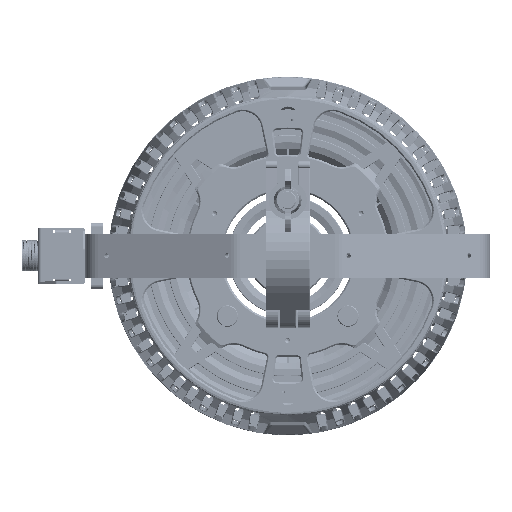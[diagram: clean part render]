
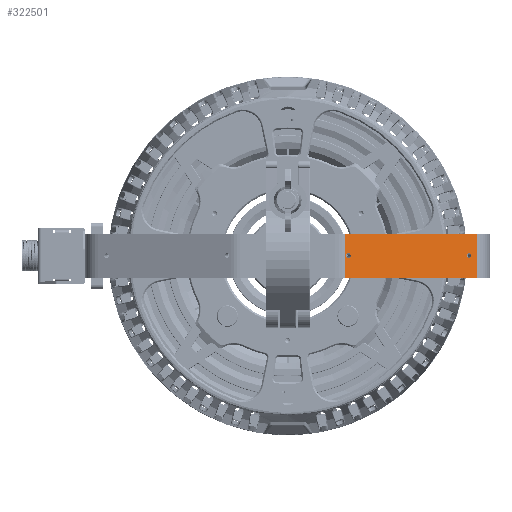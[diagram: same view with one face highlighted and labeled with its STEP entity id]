
A CAD part, top view. The second image highlights one B-rep face of the part: STEP entity #322501.
In plain terms, the highlighted planar face has unit normal (0.413, 0, 0.911) as drawn and (0.413, 0.911, 0) by its records, which use the part's own axes.
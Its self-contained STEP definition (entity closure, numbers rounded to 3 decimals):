
#4580 = VERTEX_POINT ( 'NONE', #208321 ) ;
#14765 = AXIS2_PLACEMENT_3D ( 'NONE', #99394, #97649, #255922 ) ;
#15324 = DIRECTION ( 'NONE',  ( 0.413, 0.911, 0. ) ) ;
#19506 = AXIS2_PLACEMENT_3D ( 'NONE', #152510, #15324, #97959 ) ;
#25094 = VERTEX_POINT ( 'NONE', #112784 ) ;
#30372 = DIRECTION ( 'NONE',  ( 0.413, 0.911, 0. ) ) ;
#36580 = CARTESIAN_POINT ( 'NONE',  ( 42.785, 81.788, 0. ) ) ;
#42269 = DIRECTION ( 'NONE',  ( 0.911, -0.413, 0. ) ) ;
#44720 = EDGE_CURVE ( 'NONE', #25094, #148226, #171202, .T. ) ;
#48611 = DIRECTION ( 'NONE',  ( 0., 0., 1. ) ) ;
#61942 = AXIS2_PLACEMENT_3D ( 'NONE', #134186, #30372, #137656 ) ;
#69070 = DIRECTION ( 'NONE',  ( 0.911, -0.413, 0. ) ) ;
#78253 = EDGE_CURVE ( 'NONE', #241463, #4580, #252016, .T. ) ;
#84263 = CIRCLE ( 'NONE', #61942, 1.65 ) ;
#91547 = ORIENTED_EDGE ( 'NONE', *, *, #78253, .T. ) ;
#96527 = ORIENTED_EDGE ( 'NONE', *, *, #195648, .F. ) ;
#97150 = CARTESIAN_POINT ( 'NONE',  ( 128.7, 42.793, -15. ) ) ;
#97649 = DIRECTION ( 'NONE',  ( -0.413, -0.911, 0. ) ) ;
#97959 = DIRECTION ( 'NONE',  ( -0.911, 0.413, 0. ) ) ;
#99394 = CARTESIAN_POINT ( 'NONE',  ( 36.693, 84.553, -126.295 ) ) ;
#101518 = EDGE_CURVE ( 'NONE', #160102, #241463, #310597, .T. ) ;
#105293 = DIRECTION ( 'NONE',  ( 0., 0., -1. ) ) ;
#112784 = CARTESIAN_POINT ( 'NONE',  ( 124.738, 44.591, 0. ) ) ;
#115990 = ORIENTED_EDGE ( 'NONE', *, *, #44720, .F. ) ;
#120284 = VECTOR ( 'NONE', #105293, 1000. ) ;
#121852 = CARTESIAN_POINT ( 'NONE',  ( 36.693, 84.553, 15. ) ) ;
#125778 = FACE_BOUND ( 'NONE', #299361, .T. ) ;
#134186 = CARTESIAN_POINT ( 'NONE',  ( 123.236, 45.273, 0. ) ) ;
#135006 = EDGE_CURVE ( 'NONE', #160102, #301298, #233830, .T. ) ;
#137656 = DIRECTION ( 'NONE',  ( -0.911, 0.413, 0. ) ) ;
#140053 = ORIENTED_EDGE ( 'NONE', *, *, #171310, .F. ) ;
#142189 = CARTESIAN_POINT ( 'NONE',  ( 38.663, 83.659, 15. ) ) ;
#148226 = VERTEX_POINT ( 'NONE', #256834 ) ;
#149821 = VECTOR ( 'NONE', #48611, 1000. ) ;
#152378 = DIRECTION ( 'NONE',  ( -0.911, 0.413, 0. ) ) ;
#152510 = CARTESIAN_POINT ( 'NONE',  ( 123.236, 45.273, 0. ) ) ;
#160102 = VERTEX_POINT ( 'NONE', #266092 ) ;
#166252 = CARTESIAN_POINT ( 'NONE',  ( 39.78, 83.152, 0. ) ) ;
#169792 = VECTOR ( 'NONE', #69070, 1000. ) ;
#171202 = CIRCLE ( 'NONE', #19506, 1.65 ) ;
#171310 = EDGE_CURVE ( 'NONE', #295083, #253327, #201390, .T. ) ;
#186162 = LINE ( 'NONE', #244072, #120284 ) ;
#190339 = EDGE_LOOP ( 'NONE', ( #204769, #195284, #91547, #332749 ) ) ;
#195284 = ORIENTED_EDGE ( 'NONE', *, *, #101518, .T. ) ;
#195648 = EDGE_CURVE ( 'NONE', #253327, #295083, #308546, .T. ) ;
#197890 = DIRECTION ( 'NONE',  ( 0.413, 0.911, 0. ) ) ;
#199703 = VECTOR ( 'NONE', #42269, 1000. ) ;
#201390 = CIRCLE ( 'NONE', #235202, 1.65 ) ;
#203196 = PLANE ( 'NONE',  #14765 ) ;
#204769 = ORIENTED_EDGE ( 'NONE', *, *, #135006, .F. ) ;
#208321 = CARTESIAN_POINT ( 'NONE',  ( 128.7, 42.793, 15. ) ) ;
#216357 = EDGE_LOOP ( 'NONE', ( #96527, #140053 ) ) ;
#231545 = CARTESIAN_POINT ( 'NONE',  ( 38.663, 83.659, -126.295 ) ) ;
#233007 = FACE_OUTER_BOUND ( 'NONE', #190339, .T. ) ;
#233830 = LINE ( 'NONE', #258454, #199703 ) ;
#234752 = FACE_BOUND ( 'NONE', #216357, .T. ) ;
#235202 = AXIS2_PLACEMENT_3D ( 'NONE', #319164, #292767, #152378 ) ;
#241463 = VERTEX_POINT ( 'NONE', #142189 ) ;
#244072 = CARTESIAN_POINT ( 'NONE',  ( 128.7, 42.793, -126.295 ) ) ;
#252016 = LINE ( 'NONE', #121852, #169792 ) ;
#253327 = VERTEX_POINT ( 'NONE', #166252 ) ;
#255922 = DIRECTION ( 'NONE',  ( -0.911, 0.413, 0. ) ) ;
#256834 = CARTESIAN_POINT ( 'NONE',  ( 121.733, 45.955, 0. ) ) ;
#258454 = CARTESIAN_POINT ( 'NONE',  ( 36.693, 84.553, -15. ) ) ;
#266092 = CARTESIAN_POINT ( 'NONE',  ( 38.663, 83.659, -15. ) ) ;
#276197 = ORIENTED_EDGE ( 'NONE', *, *, #337759, .F. ) ;
#278697 = CARTESIAN_POINT ( 'NONE',  ( 41.282, 82.47, 0. ) ) ;
#292767 = DIRECTION ( 'NONE',  ( 0.413, 0.911, 0. ) ) ;
#295083 = VERTEX_POINT ( 'NONE', #36580 ) ;
#296556 = EDGE_CURVE ( 'NONE', #4580, #301298, #186162, .T. ) ;
#297440 = AXIS2_PLACEMENT_3D ( 'NONE', #278697, #197890, #343018 ) ;
#299361 = EDGE_LOOP ( 'NONE', ( #276197, #115990 ) ) ;
#301298 = VERTEX_POINT ( 'NONE', #97150 ) ;
#308546 = CIRCLE ( 'NONE', #297440, 1.65 ) ;
#310597 = LINE ( 'NONE', #231545, #149821 ) ;
#319164 = CARTESIAN_POINT ( 'NONE',  ( 41.282, 82.47, 0. ) ) ;
#322501 = ADVANCED_FACE ( 'NONE', ( #234752, #125778, #233007 ), #203196, .F. ) ;
#332749 = ORIENTED_EDGE ( 'NONE', *, *, #296556, .T. ) ;
#337759 = EDGE_CURVE ( 'NONE', #148226, #25094, #84263, .T. ) ;
#343018 = DIRECTION ( 'NONE',  ( -0.911, 0.413, 0. ) ) ;
